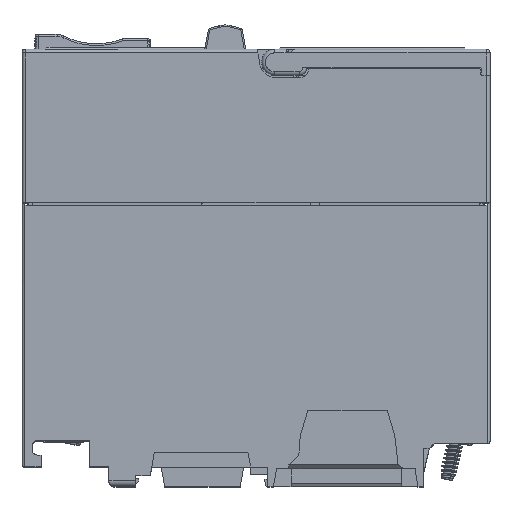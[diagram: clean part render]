
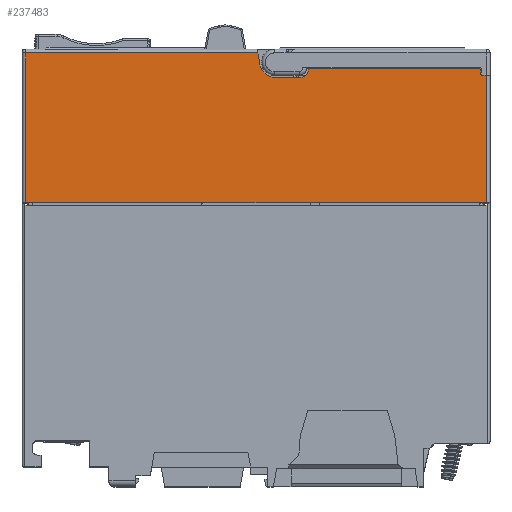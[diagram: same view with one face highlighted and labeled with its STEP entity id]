
A CAD part, top view. The second image highlights one B-rep face of the part: STEP entity #237483.
In plain terms, the highlighted planar face has unit normal (0, 0, 1).
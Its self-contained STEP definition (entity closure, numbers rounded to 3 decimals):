
#207357=DIRECTION('',(1.,0.,0.));
#207358=VECTOR('',#207357,123.);
#207359=CARTESIAN_POINT('',(-61.5,75.8,20.));
#207360=LINE('',#207359,#207358);
#207958=DIRECTION('',(0.,-1.,0.));
#207959=VECTOR('',#207958,40.);
#207960=CARTESIAN_POINT('',(-61.5,115.8,20.));
#207961=LINE('',#207960,#207959);
#207966=DIRECTION('',(0.174,-0.985,0.));
#207967=VECTOR('',#207966,3.244);
#207968=CARTESIAN_POINT('',(0.497,115.8,20.));
#207969=LINE('',#207968,#207967);
#207970=CARTESIAN_POINT('',(5.,113.3,20.));
#207971=DIRECTION('',(0.,0.,1.));
#207972=DIRECTION('',(-0.985,-0.174,0.));
#207973=AXIS2_PLACEMENT_3D('',#207970,#207971,#207972);
#207975=DIRECTION('',(1.,0.,0.));
#207976=VECTOR('',#207975,7.);
#207977=CARTESIAN_POINT('',(5.,109.3,20.));
#207978=LINE('',#207977,#207976);
#207979=CARTESIAN_POINT('',(12.,111.3,20.));
#207980=DIRECTION('',(0.,0.,1.));
#207981=DIRECTION('',(0.,-1.,0.));
#207982=AXIS2_PLACEMENT_3D('',#207979,#207980,#207981);
#207984=DIRECTION('',(0.,1.,0.));
#207985=VECTOR('',#207984,0.4);
#207986=CARTESIAN_POINT('',(14.,111.3,20.));
#207987=LINE('',#207986,#207985);
#207988=DIRECTION('',(1.,0.,0.));
#207989=VECTOR('',#207988,46.096);
#207990=CARTESIAN_POINT('',(14.,111.7,20.));
#207991=LINE('',#207990,#207989);
#207992=DIRECTION('',(0.087,-0.996,0.));
#207993=VECTOR('',#207992,1.016);
#207994=CARTESIAN_POINT('',(60.096,111.7,20.));
#207995=LINE('',#207994,#207993);
#207996=CARTESIAN_POINT('',(60.5,110.3,20.));
#207997=DIRECTION('',(0.,0.,1.));
#207998=DIRECTION('',(-0.63,0.776,0.));
#207999=AXIS2_PLACEMENT_3D('',#207996,#207997,#207998);
#208001=CARTESIAN_POINT('',(60.5,110.3,20.));
#208002=DIRECTION('',(0.,0.,1.));
#208003=DIRECTION('',(-1.,0.,0.));
#208004=AXIS2_PLACEMENT_3D('',#208001,#208002,#208003);
#208006=DIRECTION('',(1.,0.,0.));
#208007=VECTOR('',#208006,1.);
#208008=CARTESIAN_POINT('',(60.5,109.8,20.));
#208009=LINE('',#208008,#208007);
#208028=DIRECTION('',(-1.,0.,0.));
#208029=VECTOR('',#208028,61.997);
#208030=CARTESIAN_POINT('',(0.497,115.8,20.));
#208031=LINE('',#208030,#208029);
#215116=DIRECTION('',(0.,1.,0.));
#215117=VECTOR('',#215116,34.);
#215118=CARTESIAN_POINT('',(61.5,75.8,20.));
#215119=LINE('',#215118,#215117);
#228650=CARTESIAN_POINT('',(-61.5,75.8,20.));
#228651=VERTEX_POINT('',#228650);
#228652=CARTESIAN_POINT('',(61.5,75.8,20.));
#228653=VERTEX_POINT('',#228652);
#228815=CARTESIAN_POINT('',(-61.5,115.8,20.));
#228816=VERTEX_POINT('',#228815);
#228817=CARTESIAN_POINT('',(0.497,115.8,20.));
#228818=CARTESIAN_POINT('',(1.061,112.605,20.));
#228819=VERTEX_POINT('',#228817);
#228820=VERTEX_POINT('',#228818);
#228821=CARTESIAN_POINT('',(5.,109.3,20.));
#228822=VERTEX_POINT('',#228821);
#228823=CARTESIAN_POINT('',(12.,109.3,20.));
#228824=VERTEX_POINT('',#228823);
#228825=CARTESIAN_POINT('',(14.,111.3,20.));
#228826=VERTEX_POINT('',#228825);
#228827=CARTESIAN_POINT('',(14.,111.7,20.));
#228828=VERTEX_POINT('',#228827);
#228829=CARTESIAN_POINT('',(60.096,111.7,20.));
#228830=VERTEX_POINT('',#228829);
#228831=CARTESIAN_POINT('',(60.185,110.688,20.));
#228832=VERTEX_POINT('',#228831);
#228833=CARTESIAN_POINT('',(60.,110.3,20.));
#228834=VERTEX_POINT('',#228833);
#228835=CARTESIAN_POINT('',(60.5,109.8,20.));
#228836=VERTEX_POINT('',#228835);
#228837=CARTESIAN_POINT('',(61.5,109.8,20.));
#228838=VERTEX_POINT('',#228837);
#237450=CARTESIAN_POINT('',(0.,95.8,20.));
#237451=DIRECTION('',(0.,0.,1.));
#237452=DIRECTION('',(-1.,0.,0.));
#237453=AXIS2_PLACEMENT_3D('',#237450,#237451,#237452);
#237454=PLANE('',#237453);
#237456=ORIENTED_EDGE('',*,*,#237455,.T.);
#237458=ORIENTED_EDGE('',*,*,#237457,.T.);
#237460=ORIENTED_EDGE('',*,*,#237459,.T.);
#237462=ORIENTED_EDGE('',*,*,#237461,.T.);
#237464=ORIENTED_EDGE('',*,*,#237463,.T.);
#237466=ORIENTED_EDGE('',*,*,#237465,.T.);
#237468=ORIENTED_EDGE('',*,*,#237467,.T.);
#237470=ORIENTED_EDGE('',*,*,#237469,.T.);
#237472=ORIENTED_EDGE('',*,*,#237471,.T.);
#237474=ORIENTED_EDGE('',*,*,#237473,.T.);
#237476=ORIENTED_EDGE('',*,*,#237475,.F.);
#237477=ORIENTED_EDGE('',*,*,#236767,.F.);
#237478=ORIENTED_EDGE('',*,*,#237441,.F.);
#237480=ORIENTED_EDGE('',*,*,#237479,.F.);
#237481=EDGE_LOOP('',(#237456,#237458,#237460,#237462,#237464,#237466,#237468,
#237470,#237472,#237474,#237476,#237477,#237478,#237480));
#237482=FACE_OUTER_BOUND('',#237481,.F.);
#237483=ADVANCED_FACE('',(#237482),#237454,.T.);
#207974=CIRCLE('',#207973,4.);
#207983=CIRCLE('',#207982,2.);
#208000=CIRCLE('',#207999,0.5);
#208005=CIRCLE('',#208004,0.5);
#236767=EDGE_CURVE('',#228651,#228653,#207360,.T.);
#237441=EDGE_CURVE('',#228816,#228651,#207961,.T.);
#237455=EDGE_CURVE('',#228819,#228820,#207969,.T.);
#237457=EDGE_CURVE('',#228820,#228822,#207974,.T.);
#237459=EDGE_CURVE('',#228822,#228824,#207978,.T.);
#237461=EDGE_CURVE('',#228824,#228826,#207983,.T.);
#237463=EDGE_CURVE('',#228826,#228828,#207987,.T.);
#237465=EDGE_CURVE('',#228828,#228830,#207991,.T.);
#237467=EDGE_CURVE('',#228830,#228832,#207995,.T.);
#237469=EDGE_CURVE('',#228832,#228834,#208000,.T.);
#237471=EDGE_CURVE('',#228834,#228836,#208005,.T.);
#237473=EDGE_CURVE('',#228836,#228838,#208009,.T.);
#237475=EDGE_CURVE('',#228653,#228838,#215119,.T.);
#237479=EDGE_CURVE('',#228819,#228816,#208031,.T.);
